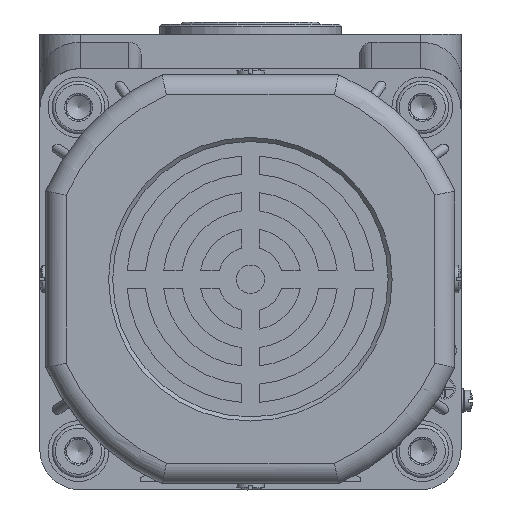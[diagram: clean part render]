
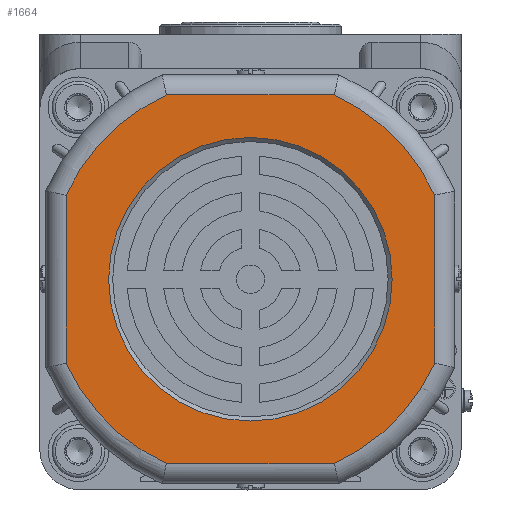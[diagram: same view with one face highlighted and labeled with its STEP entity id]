
A CAD part, left-side view. The second image highlights one B-rep face of the part: STEP entity #1664.
In plain terms, the highlighted planar face has unit normal (-1, 0, 0).
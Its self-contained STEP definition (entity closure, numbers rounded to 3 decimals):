
#790=FACE_BOUND('',#3992,.T.);
#791=FACE_BOUND('',#3993,.T.);
#1664=ADVANCED_FACE('',(#790,#791),#2685,.F.);
#2685=PLANE('',#16854);
#3992=EDGE_LOOP('',(#5323));
#3993=EDGE_LOOP('',(#5324,#5325,#5326,#5327,#5328,#5329,#5330,#5331));
#5323=ORIENTED_EDGE('',*,*,#11556,.T.);
#5324=ORIENTED_EDGE('',*,*,#11557,.T.);
#5325=ORIENTED_EDGE('',*,*,#11558,.T.);
#5326=ORIENTED_EDGE('',*,*,#11559,.T.);
#5327=ORIENTED_EDGE('',*,*,#11560,.T.);
#5328=ORIENTED_EDGE('',*,*,#11561,.T.);
#5329=ORIENTED_EDGE('',*,*,#11562,.T.);
#5330=ORIENTED_EDGE('',*,*,#11563,.T.);
#5331=ORIENTED_EDGE('',*,*,#11564,.T.);
#9987=VERTEX_POINT('',#23427);
#9988=VERTEX_POINT('',#23429);
#9989=VERTEX_POINT('',#23430);
#9990=VERTEX_POINT('',#23432);
#9991=VERTEX_POINT('',#23434);
#9992=VERTEX_POINT('',#23436);
#9993=VERTEX_POINT('',#23438);
#9994=VERTEX_POINT('',#23440);
#9995=VERTEX_POINT('',#23442);
#11556=EDGE_CURVE('',#9987,#9987,#15924,.T.);
#11557=EDGE_CURVE('',#9988,#9989,#13888,.T.);
#11558=EDGE_CURVE('',#9989,#9990,#15925,.T.);
#11559=EDGE_CURVE('',#9990,#9991,#13889,.T.);
#11560=EDGE_CURVE('',#9991,#9992,#15926,.T.);
#11561=EDGE_CURVE('',#9992,#9993,#13890,.T.);
#11562=EDGE_CURVE('',#9993,#9994,#15927,.T.);
#11563=EDGE_CURVE('',#9994,#9995,#13891,.T.);
#11564=EDGE_CURVE('',#9995,#9988,#15928,.T.);
#13888=LINE('',#23428,#14858);
#13889=LINE('',#23433,#14859);
#13890=LINE('',#23437,#14860);
#13891=LINE('',#23441,#14861);
#14858=VECTOR('',#18761,1.);
#14859=VECTOR('',#18764,1.);
#14860=VECTOR('',#18767,1.);
#14861=VECTOR('',#18770,1.);
#15924=CIRCLE('',#16849,35.);
#15925=CIRCLE('',#16850,50.);
#15926=CIRCLE('',#16851,50.);
#15927=CIRCLE('',#16852,50.);
#15928=CIRCLE('',#16853,50.);
#16849=AXIS2_PLACEMENT_3D('',#23426,#18759,#18760);
#16850=AXIS2_PLACEMENT_3D('',#23431,#18762,#18763);
#16851=AXIS2_PLACEMENT_3D('',#23435,#18765,#18766);
#16852=AXIS2_PLACEMENT_3D('',#23439,#18768,#18769);
#16853=AXIS2_PLACEMENT_3D('',#23443,#18771,#18772);
#16854=AXIS2_PLACEMENT_3D('',#23444,#18773,#18774);
#18759=DIRECTION('',(1.,0.,0.));
#18760=DIRECTION('',(0.,-1.,0.));
#18761=DIRECTION('',(0.,-1.,0.));
#18762=DIRECTION('',(-1.,0.,0.));
#18763=DIRECTION('',(0.,0.,1.));
#18764=DIRECTION('',(0.,0.,1.));
#18765=DIRECTION('',(-1.,0.,0.));
#18766=DIRECTION('',(0.,0.,1.));
#18767=DIRECTION('',(0.,1.,0.));
#18768=DIRECTION('',(-1.,0.,0.));
#18769=DIRECTION('',(0.,0.,1.));
#18770=DIRECTION('',(0.,0.,-1.));
#18771=DIRECTION('',(-1.,0.,0.));
#18772=DIRECTION('',(0.,0.,1.));
#18773=DIRECTION('',(1.,0.,0.));
#18774=DIRECTION('',(0.,0.,1.));
#23426=CARTESIAN_POINT('',(-237.8,-120.671,-58.491));
#23427=CARTESIAN_POINT('',(-237.8,-155.671,-58.491));
#23428=CARTESIAN_POINT('',(-237.8,-142.46,-103.991));
#23429=CARTESIAN_POINT('',(-237.8,-99.941,-103.991));
#23430=CARTESIAN_POINT('',(-237.8,-141.402,-103.991));
#23431=CARTESIAN_POINT('',(-237.8,-120.671,-58.491));
#23432=CARTESIAN_POINT('',(-237.8,-166.171,-79.221));
#23433=CARTESIAN_POINT('',(-237.8,-166.171,-36.702));
#23434=CARTESIAN_POINT('',(-237.8,-166.171,-37.76));
#23435=CARTESIAN_POINT('',(-237.8,-120.671,-58.491));
#23436=CARTESIAN_POINT('',(-237.8,-141.402,-12.991));
#23437=CARTESIAN_POINT('',(-237.8,-98.882,-12.991));
#23438=CARTESIAN_POINT('',(-237.8,-99.941,-12.991));
#23439=CARTESIAN_POINT('',(-237.8,-120.671,-58.491));
#23440=CARTESIAN_POINT('',(-237.8,-75.171,-37.76));
#23441=CARTESIAN_POINT('',(-237.8,-75.171,-80.28));
#23442=CARTESIAN_POINT('',(-237.8,-75.171,-79.221));
#23443=CARTESIAN_POINT('',(-237.8,-120.671,-58.491));
#23444=CARTESIAN_POINT('',(-237.8,-120.671,-58.491));
